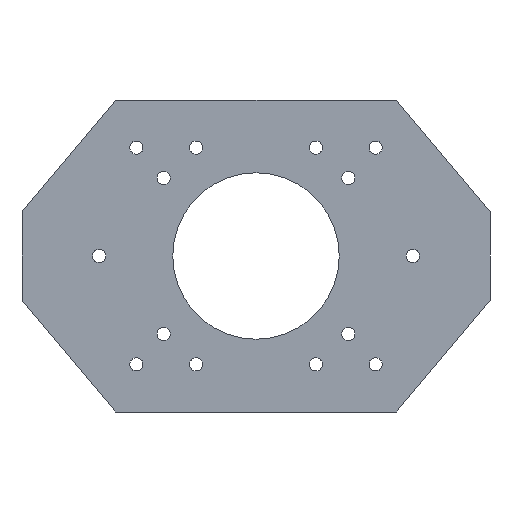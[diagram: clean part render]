
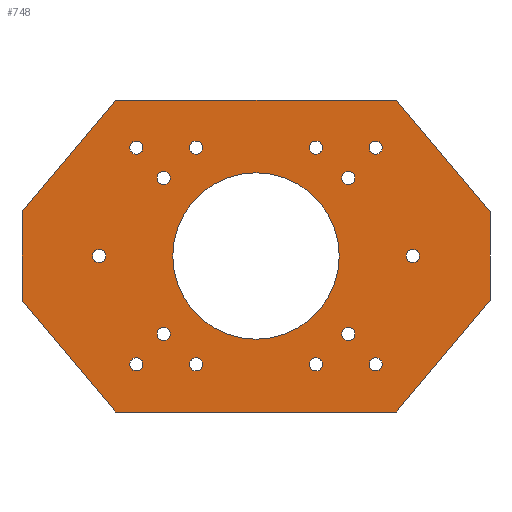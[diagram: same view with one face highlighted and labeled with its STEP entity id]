
A CAD part, front view. The second image highlights one B-rep face of the part: STEP entity #748.
In plain terms, the highlighted planar face has unit normal (0, -1, 0).
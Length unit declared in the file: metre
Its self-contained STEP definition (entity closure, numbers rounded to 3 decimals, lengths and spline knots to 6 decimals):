
#12=LINE('',#1167,#36);
#16=LINE('',#1176,#40);
#19=LINE('',#1182,#43);
#22=LINE('',#1188,#46);
#25=LINE('',#1194,#49);
#28=LINE('',#1200,#52);
#31=LINE('',#1206,#55);
#34=LINE('',#1282,#58);
#36=VECTOR('',#958,1.);
#40=VECTOR('',#964,1.);
#43=VECTOR('',#969,1.);
#46=VECTOR('',#974,1.);
#49=VECTOR('',#979,1.);
#52=VECTOR('',#984,1.);
#55=VECTOR('',#989,1.);
#58=VECTOR('',#1078,1.);
#79=PLANE('',#862);
#210=ORIENTED_EDGE('',*,*,#260,.T.);
#211=ORIENTED_EDGE('',*,*,#310,.F.);
#212=ORIENTED_EDGE('',*,*,#279,.T.);
#213=ORIENTED_EDGE('',*,*,#276,.T.);
#214=ORIENTED_EDGE('',*,*,#273,.F.);
#215=ORIENTED_EDGE('',*,*,#270,.F.);
#216=ORIENTED_EDGE('',*,*,#267,.T.);
#217=ORIENTED_EDGE('',*,*,#264,.T.);
#218=ORIENTED_EDGE('',*,*,#309,.T.);
#219=ORIENTED_EDGE('',*,*,#307,.F.);
#220=ORIENTED_EDGE('',*,*,#305,.T.);
#221=ORIENTED_EDGE('',*,*,#303,.T.);
#222=ORIENTED_EDGE('',*,*,#301,.T.);
#223=ORIENTED_EDGE('',*,*,#299,.T.);
#224=ORIENTED_EDGE('',*,*,#297,.F.);
#225=ORIENTED_EDGE('',*,*,#295,.F.);
#226=ORIENTED_EDGE('',*,*,#293,.F.);
#227=ORIENTED_EDGE('',*,*,#291,.F.);
#228=ORIENTED_EDGE('',*,*,#289,.T.);
#229=ORIENTED_EDGE('',*,*,#287,.T.);
#230=ORIENTED_EDGE('',*,*,#285,.T.);
#231=ORIENTED_EDGE('',*,*,#283,.F.);
#232=ORIENTED_EDGE('',*,*,#313,.F.);
#260=EDGE_CURVE('',#338,#339,#12,.T.);
#264=EDGE_CURVE('',#342,#338,#16,.T.);
#267=EDGE_CURVE('',#344,#342,#19,.T.);
#270=EDGE_CURVE('',#344,#346,#22,.T.);
#273=EDGE_CURVE('',#346,#348,#25,.T.);
#276=EDGE_CURVE('',#350,#348,#28,.T.);
#279=EDGE_CURVE('',#352,#350,#31,.T.);
#283=EDGE_CURVE('',#355,#355,#409,.T.);
#285=EDGE_CURVE('',#357,#357,#411,.T.);
#287=EDGE_CURVE('',#359,#359,#413,.T.);
#289=EDGE_CURVE('',#361,#361,#415,.T.);
#291=EDGE_CURVE('',#363,#363,#417,.T.);
#293=EDGE_CURVE('',#365,#365,#419,.T.);
#295=EDGE_CURVE('',#367,#367,#421,.T.);
#297=EDGE_CURVE('',#369,#369,#423,.T.);
#299=EDGE_CURVE('',#371,#371,#425,.T.);
#301=EDGE_CURVE('',#373,#373,#427,.T.);
#303=EDGE_CURVE('',#375,#375,#429,.T.);
#305=EDGE_CURVE('',#377,#377,#431,.T.);
#307=EDGE_CURVE('',#379,#379,#433,.T.);
#309=EDGE_CURVE('',#381,#381,#435,.T.);
#310=EDGE_CURVE('',#352,#339,#34,.T.);
#313=EDGE_CURVE('',#383,#383,#437,.T.);
#338=VERTEX_POINT('',#1168);
#339=VERTEX_POINT('',#1169);
#342=VERTEX_POINT('',#1177);
#344=VERTEX_POINT('',#1183);
#346=VERTEX_POINT('',#1189);
#348=VERTEX_POINT('',#1195);
#350=VERTEX_POINT('',#1201);
#352=VERTEX_POINT('',#1207);
#355=VERTEX_POINT('',#1215);
#357=VERTEX_POINT('',#1220);
#359=VERTEX_POINT('',#1225);
#361=VERTEX_POINT('',#1230);
#363=VERTEX_POINT('',#1235);
#365=VERTEX_POINT('',#1240);
#367=VERTEX_POINT('',#1245);
#369=VERTEX_POINT('',#1250);
#371=VERTEX_POINT('',#1255);
#373=VERTEX_POINT('',#1260);
#375=VERTEX_POINT('',#1265);
#377=VERTEX_POINT('',#1270);
#379=VERTEX_POINT('',#1275);
#381=VERTEX_POINT('',#1280);
#383=VERTEX_POINT('',#1288);
#409=CIRCLE('',#817,0.00255);
#411=CIRCLE('',#820,0.00255);
#413=CIRCLE('',#823,0.00255);
#415=CIRCLE('',#826,0.00255);
#417=CIRCLE('',#829,0.00255);
#419=CIRCLE('',#832,0.00255);
#421=CIRCLE('',#835,0.00255);
#423=CIRCLE('',#838,0.00255);
#425=CIRCLE('',#841,0.00255);
#427=CIRCLE('',#844,0.00255);
#429=CIRCLE('',#847,0.00255);
#431=CIRCLE('',#850,0.032);
#433=CIRCLE('',#853,0.00255);
#435=CIRCLE('',#856,0.00255);
#437=CIRCLE('',#860,0.00255);
#537=EDGE_LOOP('',(#210,#211,#212,#213,#214,#215,#216,#217));
#538=EDGE_LOOP('',(#218));
#539=EDGE_LOOP('',(#219));
#540=EDGE_LOOP('',(#220));
#541=EDGE_LOOP('',(#221));
#542=EDGE_LOOP('',(#222));
#543=EDGE_LOOP('',(#223));
#544=EDGE_LOOP('',(#224));
#545=EDGE_LOOP('',(#225));
#546=EDGE_LOOP('',(#226));
#547=EDGE_LOOP('',(#227));
#548=EDGE_LOOP('',(#228));
#549=EDGE_LOOP('',(#229));
#550=EDGE_LOOP('',(#230));
#551=EDGE_LOOP('',(#231));
#552=EDGE_LOOP('',(#232));
#655=FACE_BOUND('',#537,.T.);
#656=FACE_BOUND('',#538,.T.);
#657=FACE_BOUND('',#539,.T.);
#658=FACE_BOUND('',#540,.T.);
#659=FACE_BOUND('',#541,.T.);
#660=FACE_BOUND('',#542,.T.);
#661=FACE_BOUND('',#543,.T.);
#662=FACE_BOUND('',#544,.T.);
#663=FACE_BOUND('',#545,.T.);
#664=FACE_BOUND('',#546,.T.);
#665=FACE_BOUND('',#547,.T.);
#666=FACE_BOUND('',#548,.T.);
#667=FACE_BOUND('',#549,.T.);
#668=FACE_BOUND('',#550,.T.);
#669=FACE_BOUND('',#551,.T.);
#670=FACE_BOUND('',#552,.T.);
#748=ADVANCED_FACE('',(#655,#656,#657,#658,#659,#660,#661,#662,#663,#664,
#665,#666,#667,#668,#669,#670),#79,.F.);
#817=AXIS2_PLACEMENT_3D('',#1214,#996,#997);
#820=AXIS2_PLACEMENT_3D('',#1219,#1002,#1003);
#823=AXIS2_PLACEMENT_3D('',#1224,#1008,#1009);
#826=AXIS2_PLACEMENT_3D('',#1229,#1014,#1015);
#829=AXIS2_PLACEMENT_3D('',#1234,#1020,#1021);
#832=AXIS2_PLACEMENT_3D('',#1239,#1026,#1027);
#835=AXIS2_PLACEMENT_3D('',#1244,#1032,#1033);
#838=AXIS2_PLACEMENT_3D('',#1249,#1038,#1039);
#841=AXIS2_PLACEMENT_3D('',#1254,#1044,#1045);
#844=AXIS2_PLACEMENT_3D('',#1259,#1050,#1051);
#847=AXIS2_PLACEMENT_3D('',#1264,#1056,#1057);
#850=AXIS2_PLACEMENT_3D('',#1269,#1062,#1063);
#853=AXIS2_PLACEMENT_3D('',#1274,#1068,#1069);
#856=AXIS2_PLACEMENT_3D('',#1279,#1074,#1075);
#860=AXIS2_PLACEMENT_3D('',#1287,#1084,#1085);
#862=AXIS2_PLACEMENT_3D('',#1290,#1088,#1089);
#958=DIRECTION('',(0.,0.,1.));
#964=DIRECTION('',(0.642,0.,0.767));
#969=DIRECTION('',(1.,0.,0.));
#974=DIRECTION('',(-0.642,0.,0.767));
#979=DIRECTION('',(0.,0.,1.));
#984=DIRECTION('',(-0.642,0.,-0.767));
#989=DIRECTION('',(-1.,0.,0.));
#996=DIRECTION('',(0.,-1.,0.));
#997=DIRECTION('',(1.,0.,0.));
#1002=DIRECTION('',(0.,1.,0.));
#1003=DIRECTION('',(1.,0.,0.));
#1008=DIRECTION('',(0.,1.,0.));
#1009=DIRECTION('',(1.,0.,0.));
#1014=DIRECTION('',(0.,1.,0.));
#1015=DIRECTION('',(1.,0.,0.));
#1020=DIRECTION('',(0.,-1.,0.));
#1021=DIRECTION('',(1.,0.,0.));
#1026=DIRECTION('',(0.,-1.,0.));
#1027=DIRECTION('',(1.,0.,0.));
#1032=DIRECTION('',(0.,-1.,0.));
#1033=DIRECTION('',(1.,0.,0.));
#1038=DIRECTION('',(0.,-1.,0.));
#1039=DIRECTION('',(1.,0.,0.));
#1044=DIRECTION('',(0.,1.,0.));
#1045=DIRECTION('',(1.,0.,0.));
#1050=DIRECTION('',(0.,1.,0.));
#1051=DIRECTION('',(1.,0.,0.));
#1056=DIRECTION('',(0.,1.,0.));
#1057=DIRECTION('',(1.,0.,0.));
#1062=DIRECTION('',(0.,1.,0.));
#1063=DIRECTION('',(1.,0.,0.));
#1068=DIRECTION('',(0.,-1.,0.));
#1069=DIRECTION('',(1.,0.,0.));
#1074=DIRECTION('',(0.,1.,0.));
#1075=DIRECTION('',(1.,0.,0.));
#1078=DIRECTION('',(0.642,0.,-0.767));
#1084=DIRECTION('',(0.,-1.,0.));
#1085=DIRECTION('',(1.,0.,0.));
#1088=DIRECTION('',(0.,1.,0.));
#1089=DIRECTION('',(1.,0.,0.));
#1167=CARTESIAN_POINT('',(0.09,0.,-0.0085));
#1168=CARTESIAN_POINT('',(0.09,0.,-0.017));
#1169=CARTESIAN_POINT('',(0.09,0.,0.017));
#1176=CARTESIAN_POINT('',(0.072,0.,-0.0385));
#1177=CARTESIAN_POINT('',(0.054,0.,-0.06));
#1182=CARTESIAN_POINT('',(0.027,0.,-0.06));
#1183=CARTESIAN_POINT('',(-0.054,0.,-0.06));
#1188=CARTESIAN_POINT('',(-0.072,0.,-0.0385));
#1189=CARTESIAN_POINT('',(-0.09,0.,-0.017));
#1194=CARTESIAN_POINT('',(-0.09,0.,-0.0085));
#1195=CARTESIAN_POINT('',(-0.09,0.,0.017));
#1200=CARTESIAN_POINT('',(-0.072,0.,0.0385));
#1201=CARTESIAN_POINT('',(-0.054,0.,0.06));
#1206=CARTESIAN_POINT('',(-0.027,0.,0.06));
#1207=CARTESIAN_POINT('',(0.054,0.,0.06));
#1214=CARTESIAN_POINT('',(0.0355,0.,-0.03));
#1215=CARTESIAN_POINT('',(0.03805,0.,-0.03));
#1219=CARTESIAN_POINT('',(0.0355,0.,0.03));
#1220=CARTESIAN_POINT('',(0.03805,0.,0.03));
#1224=CARTESIAN_POINT('',(0.04605,0.,0.04165));
#1225=CARTESIAN_POINT('',(0.0486,0.,0.04165));
#1229=CARTESIAN_POINT('',(0.023,0.,0.04165));
#1230=CARTESIAN_POINT('',(0.02555,0.,0.04165));
#1234=CARTESIAN_POINT('',(-0.0355,0.,0.03));
#1235=CARTESIAN_POINT('',(-0.03295,0.,0.03));
#1239=CARTESIAN_POINT('',(-0.04605,0.,0.04165));
#1240=CARTESIAN_POINT('',(-0.0435,0.,0.04165));
#1244=CARTESIAN_POINT('',(-0.023,0.,0.04165));
#1245=CARTESIAN_POINT('',(-0.02045,0.,0.04165));
#1249=CARTESIAN_POINT('',(0.023,0.,-0.04165));
#1250=CARTESIAN_POINT('',(0.02555,0.,-0.04165));
#1254=CARTESIAN_POINT('',(-0.0355,0.,-0.03));
#1255=CARTESIAN_POINT('',(-0.03295,0.,-0.03));
#1259=CARTESIAN_POINT('',(-0.023,0.,-0.04165));
#1260=CARTESIAN_POINT('',(-0.02045,0.,-0.04165));
#1264=CARTESIAN_POINT('',(-0.04605,0.,-0.04165));
#1265=CARTESIAN_POINT('',(-0.0435,0.,-0.04165));
#1269=CARTESIAN_POINT('',(0.,0.,0.));
#1270=CARTESIAN_POINT('',(0.032,0.,0.));
#1274=CARTESIAN_POINT('',(-0.0603,0.,0.));
#1275=CARTESIAN_POINT('',(-0.05775,0.,0.));
#1279=CARTESIAN_POINT('',(0.0603,0.,0.));
#1280=CARTESIAN_POINT('',(0.06285,0.,0.));
#1282=CARTESIAN_POINT('',(0.072,0.,0.0385));
#1287=CARTESIAN_POINT('',(0.04605,0.,-0.04165));
#1288=CARTESIAN_POINT('',(0.0486,0.,-0.04165));
#1290=CARTESIAN_POINT('',(0.,0.,0.));
